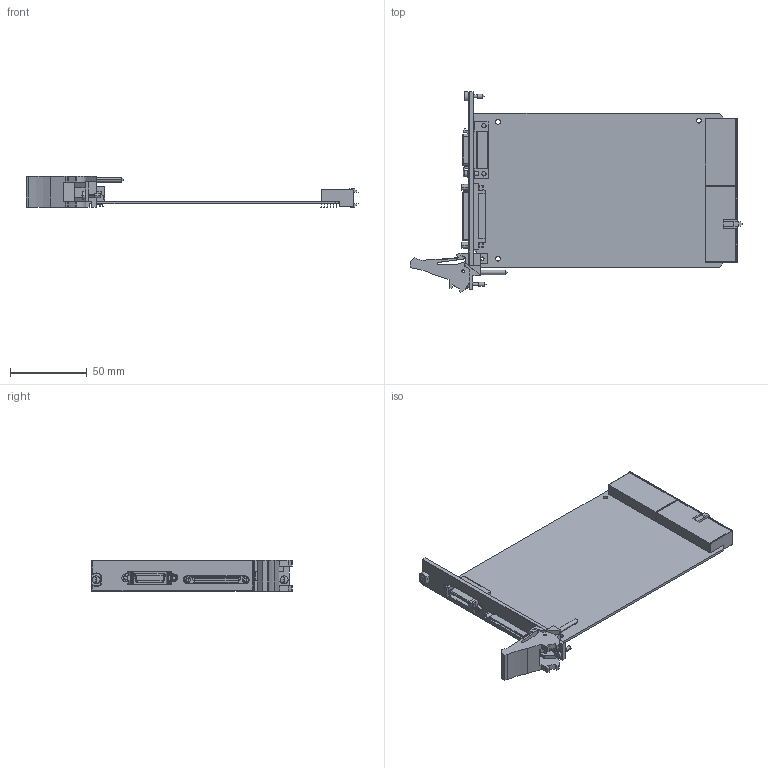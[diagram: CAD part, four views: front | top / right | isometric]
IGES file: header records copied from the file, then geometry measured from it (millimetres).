
Start section:  PTC IGES file: cu_pxi-1428.igs
Global section: file name: cu_pxi-1428.igs; native system: Pro/ENGINEER by Parametric Technology Corporation; preprocessor: 2010230; author: dkendric; organization: Unknown; date: 20110816.103242; units: inch
Bounding box: 216.08 x 130.62 x 20.19 mm (x, y, z)
Surface area: 52577.7 mm2 (no closed solid volume)
Topology: 0 solids, 0 shells, 710 faces, 3736 edges, 3732 vertices
Faces by surface type: bspline 459, revolution 251
